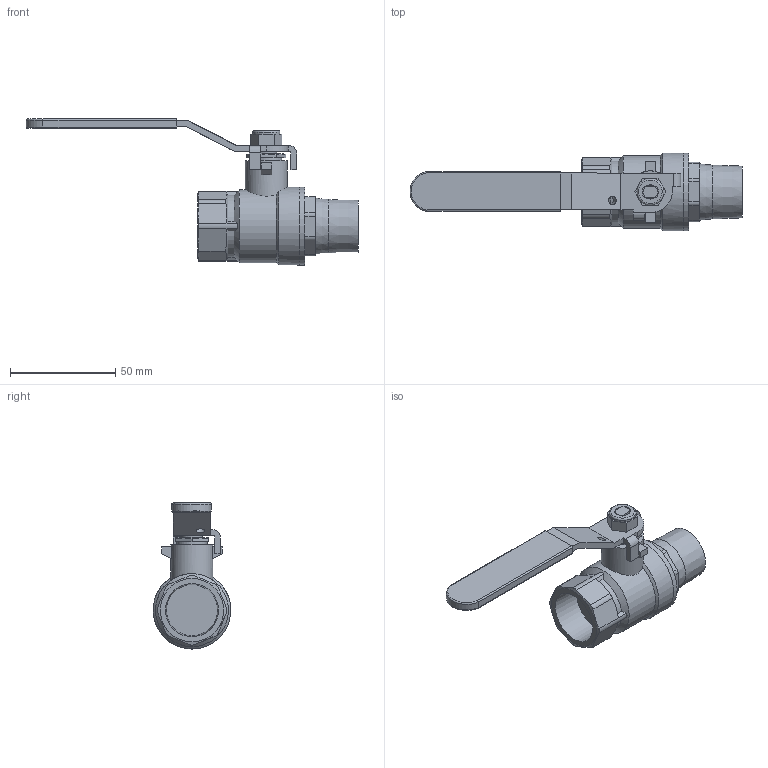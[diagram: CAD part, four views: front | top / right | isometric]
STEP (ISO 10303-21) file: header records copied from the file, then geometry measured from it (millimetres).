
FILE_DESCRIPTION((' '),'2;1');
FILE_NAME('N:\Technical Support\Private\Jomar Valve CAD\Ball Valves\Brass\JF-100GMxF\0.75_JF-100GMxF_100-134GFusionCopy.stp.step','2017-06-01T08:54:20',(' '),(' '),' ','ACIS',' ');
FILE_SCHEMA(('CONFIG_CONTROL_DESIGN'));
Length unit declared in the file: inch
Products named in the file (8): N:\Technical Support\Private\Jomar Valve CAD\Ball Valves\Brass\JF-100GMxF\0.75_JF-100GMxF_100-134GFusionCopy.stp.step; Body1; Body2; Body3; Body4; Body5; Body6; Body7
Assembly tree (7 placements, depth 2):
  N:\Technical Support\Private\Jomar Valve CAD\Ball Valves\Brass\JF-100GMxF\0.75_JF-100GMxF_100-134GFusionCopy.stp.step
    Body1
    Body2
    Body3
    Body4
    Body5
    Body6
    Body7
Bounding box: 157.42 x 36.83 x 69.23 mm (x, y, z)
Volume: 63527 mm3; surface area: 26045.5 mm2
Topology: 7 solids, 7 shells, 164 faces, 406 edges, 263 vertices
Faces by surface type: plane 90, cylinder 43, cone 15, bspline 13, torus 3
Full cylindrical faces by diameter (mm): 4.064 x1, 6.858 x1, 9.906 x1, 10.16 x1, 12.751 x1, 14.478 x1, 19.939 x1, 20.066 x1, 34.595 x1, 36.83 x2
Entity records: 5941 total; most frequent: CARTESIAN_POINT 1180, ORIENTED_EDGE 758, DIRECTION 742, EDGE_CURVE 379, AXIS2_PLACEMENT_3D 264, VERTEX_POINT 253, VECTOR 214, LINE 214
